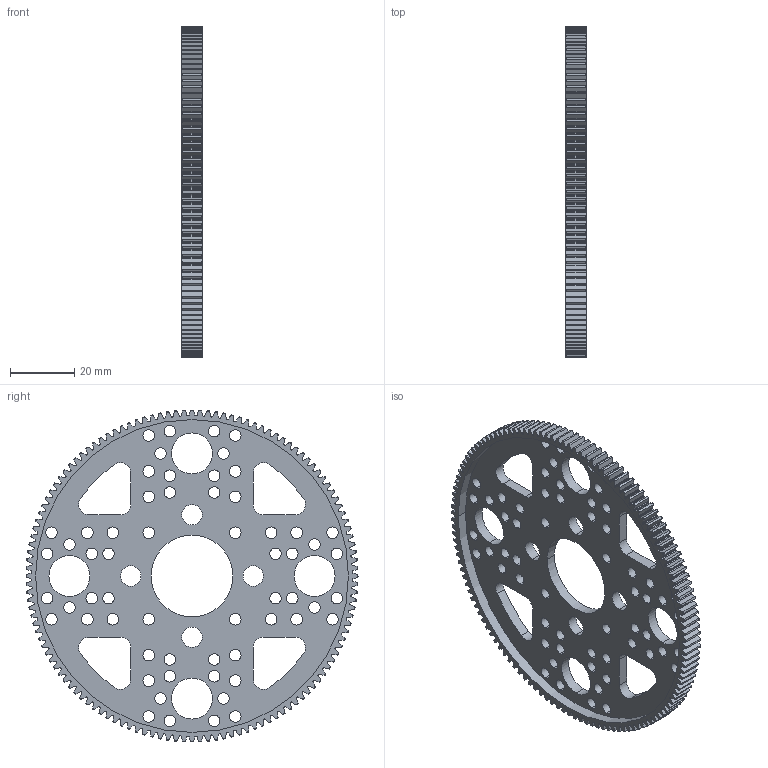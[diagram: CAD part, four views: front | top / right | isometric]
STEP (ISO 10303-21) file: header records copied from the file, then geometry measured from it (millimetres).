
FILE_DESCRIPTION (( 'STEP AP203' ), '1' );
FILE_NAME ('615238.STEP', '2014-07-22T20:14:30', ( 'Kyle' ), ( 'Microsoft' ), 'SwSTEP 2.0', 'SolidWorks 2014', '' );
FILE_SCHEMA (( 'CONFIG_CONTROL_DESIGN' ));
Length unit declared in the file: inch
Products named in the file (1): 615238
Bounding box: 6.35 x 103.19 x 103.19 mm (x, y, z)
Volume: 19834.4 mm3; surface area: 19918.3 mm2
Topology: 1 solids, 1 shells, 1271 faces, 3803 edges, 2535 vertices
Faces by surface type: cylinder 746, torus 258, bspline 256, plane 11
Entity records: 54769 total; most frequent: CARTESIAN_POINT 21202, ORIENTED_EDGE 7606, DIRECTION 6564, EDGE_CURVE 3803, AXIS2_PLACEMENT_3D 2769, VERTEX_POINT 2535, CIRCLE 1753, EDGE_LOOP 1418
